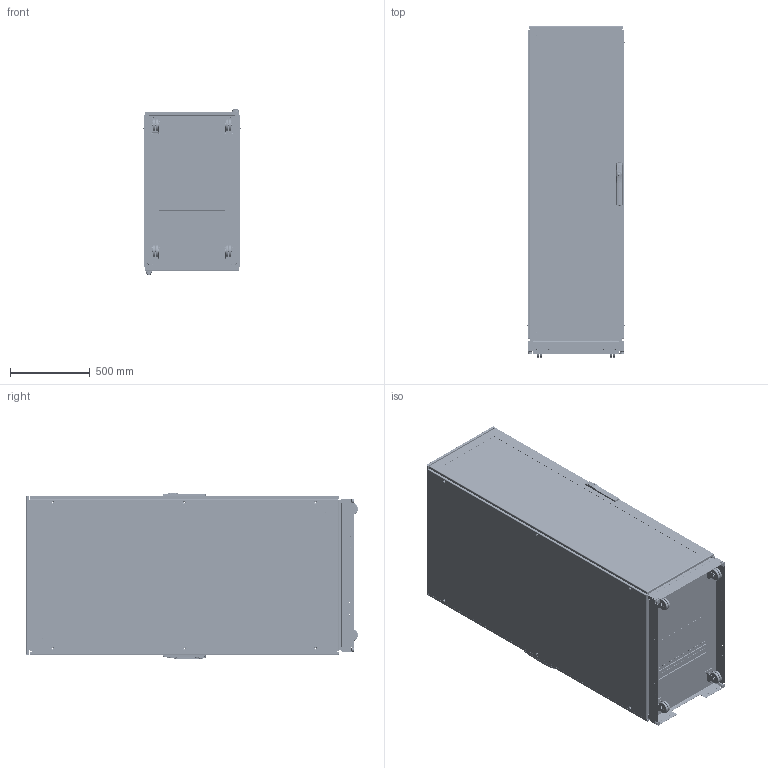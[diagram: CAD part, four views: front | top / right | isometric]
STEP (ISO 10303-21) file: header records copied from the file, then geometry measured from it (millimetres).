
FILE_DESCRIPTION (( 'STEP AP203' ), '1' );
FILE_NAME ('psc20610bac2.STEP', '2018-12-07T20:52:55', ( '' ), ( '' ), 'SwSTEP 2.0', 'SolidWorks 2016', '' );
FILE_SCHEMA (( 'CONFIG_CONTROL_DESIGN' ));
Length unit declared in the file: inch
Products named in the file (98): 89142824_89142824; 60127216_60127216; 89056800_FIP GASKET; 99401225; 60127207; 89169789_87792631; 22166001; 51232001_51232001; 60127093; 87931368_SLEEVE; 51231001; 30127014; 87562939_87562939; 87920638_87920638; 60127139_60127139; 87789842_89047930; 89107118; 60127212; 89169790_89057244; 89057488_Side to side; 60127173_60127173; 51137001; 60100041_60100041; 11258014; 30127077; 11458037; 11458078_11458078; 11158132_THIKNESS .155 FIXED; psc20610bac2; 60127256_60127256; 89107054_87950563; 89057245_89057245; 89057487_89057487; 60127277_60127277; 60127430; 89057341_FIP GASKET; 46139001_46139001; 30127064; 11458036; 89091664_875472289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
Assembly tree (267 placements, depth 5):
  psc20610bac2
    87786833_87786833
      60127013  x8
      30127014  x4
      30127077  x4
      30127064  x4
      87786839_87786839  x6
    89057487_89057487
      87789344
        89057339_89057339
        87417311  x4
        60100041_60100041
          87931527_87931527
          87931368_SLEEVE
        89057341_FIP GASKET
      11258507  x4
      99411251_99411251  x16
      99411250_99411250  x4
      45102001  x4
      22166001  x4
      89057488_Side to side
    87746964
    89107082
      89107054_87950563
        89107024_87545437
        60127101_After Weld  x3
        60100041_60100041  x2
          87931527_87931527
          87931368_SLEEVE
        60127172_60127172  x3
        89107100_87950583
        99401225  x22
        89107118
      60127224_60127224
        60127106_60127106
        60127175_60127175  x2
        60127216_60127216  x3
          60127140_60127140
          60127138_60127138
          87576035_87576035
        60127139_60127139  x4
        11158132_THIKNESS .155 FIXED  x8
        11158133_11581133  x3
      60127277_60127277  x3
        51232001_51232001
        60127173_60127173
      87792981  x2
      87792979  x2
      60127256_60127256
        87798947_87798947
        60127182_60127182
        60127208
        60127207
        60127212
      89107076_87412773  x2
      89107068_87412788  x2
      60127289_60127289
      99411237_99411237  x22
    87937031_87410594
      11458078_11458078
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Bounding box: 609.23 x 2083.08 x 1045.93 mm (x, y, z)
Volume: 27731607.5 mm3; surface area: 24402098.4 mm2
Topology: 292 solids, 300 shells, 24529 faces, 65162 edges, 41844 vertices
Faces by surface type: plane 13955, cylinder 6640, torus 1664, cone 1362, bspline 853, sphere 55
Entity records: 287737 total; most frequent: CARTESIAN_POINT 65152, ORIENTED_EDGE 43016, DIRECTION 42470, EDGE_CURVE 21508, AXIS2_PLACEMENT_3D 14604, VERTEX_POINT 13781, LINE 13262, VECTOR 13262
